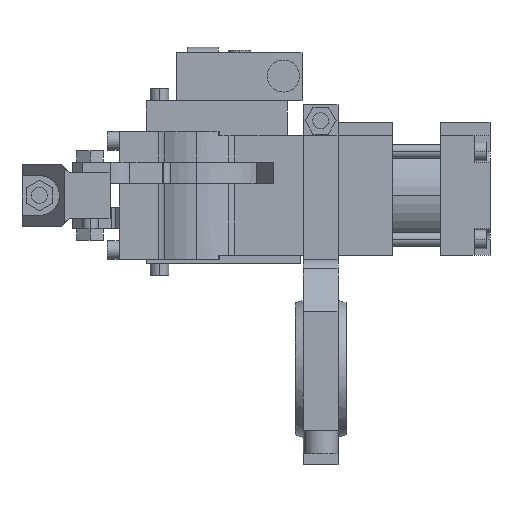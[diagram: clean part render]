
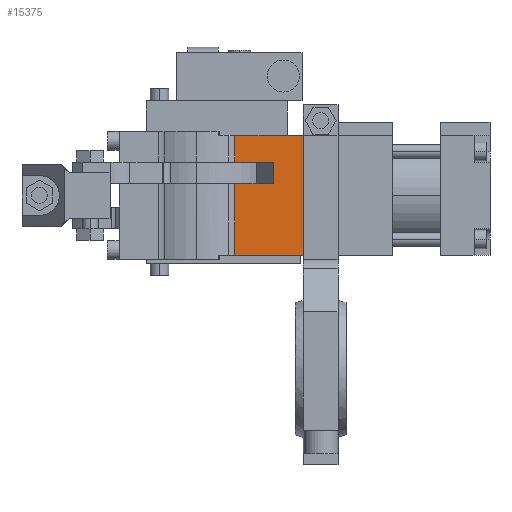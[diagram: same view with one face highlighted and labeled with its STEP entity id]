
A CAD part, left-side view. The second image highlights one B-rep face of the part: STEP entity #15375.
In plain terms, the highlighted planar face has unit normal (-1, 0, 0).
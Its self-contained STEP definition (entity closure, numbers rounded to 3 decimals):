
#337 = CARTESIAN_POINT ( 'NONE',  ( -22.5, -28.702, 12.5 ) ) ;
#551 = DIRECTION ( 'NONE',  ( 0., 0., -1. ) ) ;
#922 = LINE ( 'NONE', #8357, #19336 ) ;
#1585 = VECTOR ( 'NONE', #17774, 1000. ) ;
#1750 = CARTESIAN_POINT ( 'NONE',  ( -22.5, -14.309, -22.5 ) ) ;
#1998 = VERTEX_POINT ( 'NONE', #3906 ) ;
#2330 = EDGE_CURVE ( 'NONE', #1998, #13510, #922, .T. ) ;
#2394 = LINE ( 'NONE', #6320, #6030 ) ;
#2882 = CARTESIAN_POINT ( 'NONE',  ( -22.5, -14.309, 12.5 ) ) ;
#3906 = CARTESIAN_POINT ( 'NONE',  ( -22.5, -40., 22.5 ) ) ;
#4075 = LINE ( 'NONE', #6387, #19834 ) ;
#4427 = VERTEX_POINT ( 'NONE', #18984 ) ;
#5691 = DIRECTION ( 'NONE',  ( 0., 0., 1. ) ) ;
#5718 = LINE ( 'NONE', #7120, #1585 ) ;
#5760 = DIRECTION ( 'NONE',  ( 0., 1., 0. ) ) ;
#5776 = ORIENTED_EDGE ( 'NONE', *, *, #9754, .T. ) ;
#5782 = EDGE_CURVE ( 'NONE', #1998, #4427, #4075, .T. ) ;
#5829 = LINE ( 'NONE', #12871, #8981 ) ;
#6030 = VECTOR ( 'NONE', #15471, 1000. ) ;
#6320 = CARTESIAN_POINT ( 'NONE',  ( -22.5, -14.309, 12.5 ) ) ;
#6387 = CARTESIAN_POINT ( 'NONE',  ( -22.5, -40., 22.5 ) ) ;
#6398 = EDGE_LOOP ( 'NONE', ( #11719, #13628, #5776, #19831, #10591, #8449, #6745, #12016 ) ) ;
#6519 = VECTOR ( 'NONE', #17901, 1000. ) ;
#6551 = VERTEX_POINT ( 'NONE', #19367 ) ;
#6745 = ORIENTED_EDGE ( 'NONE', *, *, #5782, .T. ) ;
#7120 = CARTESIAN_POINT ( 'NONE',  ( -22.5, -14.309, 12.5 ) ) ;
#7238 = CARTESIAN_POINT ( 'NONE',  ( -22.5, -40., -22.5 ) ) ;
#8006 = DIRECTION ( 'NONE',  ( 0., 0., -1. ) ) ;
#8357 = CARTESIAN_POINT ( 'NONE',  ( -22.5, -40., 12.5 ) ) ;
#8449 = ORIENTED_EDGE ( 'NONE', *, *, #2330, .F. ) ;
#8693 = EDGE_CURVE ( 'NONE', #16094, #11063, #2394, .T. ) ;
#8782 = FACE_OUTER_BOUND ( 'NONE', #6398, .T. ) ;
#8981 = VECTOR ( 'NONE', #551, 1000. ) ;
#9432 = AXIS2_PLACEMENT_3D ( 'NONE', #2882, #19711, #10631 ) ;
#9754 = EDGE_CURVE ( 'NONE', #6551, #13123, #13393, .T. ) ;
#10010 = VECTOR ( 'NONE', #5691, 1000. ) ;
#10591 = ORIENTED_EDGE ( 'NONE', *, *, #17562, .T. ) ;
#10631 = DIRECTION ( 'NONE',  ( 0., 1., 0. ) ) ;
#11063 = VERTEX_POINT ( 'NONE', #15996 ) ;
#11192 = EDGE_CURVE ( 'NONE', #4427, #11063, #5718, .T. ) ;
#11719 = ORIENTED_EDGE ( 'NONE', *, *, #8693, .F. ) ;
#11844 = EDGE_CURVE ( 'NONE', #6551, #16094, #14045, .T. ) ;
#12016 = ORIENTED_EDGE ( 'NONE', *, *, #11192, .T. ) ;
#12093 = CARTESIAN_POINT ( 'NONE',  ( -22.5, -14.309, 4.5 ) ) ;
#12871 = CARTESIAN_POINT ( 'NONE',  ( -22.5, -14.309, 12.5 ) ) ;
#13090 = CARTESIAN_POINT ( 'NONE',  ( -22.5, -40., -22.5 ) ) ;
#13123 = VERTEX_POINT ( 'NONE', #12093 ) ;
#13294 = VERTEX_POINT ( 'NONE', #1750 ) ;
#13393 = LINE ( 'NONE', #19858, #16958 ) ;
#13510 = VERTEX_POINT ( 'NONE', #13090 ) ;
#13628 = ORIENTED_EDGE ( 'NONE', *, *, #11844, .F. ) ;
#13994 = EDGE_CURVE ( 'NONE', #13123, #13294, #5829, .T. ) ;
#14045 = LINE ( 'NONE', #17892, #10010 ) ;
#14169 = LINE ( 'NONE', #7238, #6519 ) ;
#15356 = DIRECTION ( 'NONE',  ( 0., 1., 0. ) ) ;
#15375 = ADVANCED_FACE ( 'NONE', ( #8782 ), #18128, .F. ) ;
#15471 = DIRECTION ( 'NONE',  ( 0., 1., 0. ) ) ;
#15996 = CARTESIAN_POINT ( 'NONE',  ( -22.5, -14.309, 12.5 ) ) ;
#16094 = VERTEX_POINT ( 'NONE', #337 ) ;
#16958 = VECTOR ( 'NONE', #15356, 1000. ) ;
#17562 = EDGE_CURVE ( 'NONE', #13294, #13510, #14169, .T. ) ;
#17774 = DIRECTION ( 'NONE',  ( 0., 0., -1. ) ) ;
#17892 = CARTESIAN_POINT ( 'NONE',  ( -22.5, -28.702, 12.5 ) ) ;
#17901 = DIRECTION ( 'NONE',  ( 0., -1., 0. ) ) ;
#18128 = PLANE ( 'NONE',  #9432 ) ;
#18984 = CARTESIAN_POINT ( 'NONE',  ( -22.5, -14.309, 22.5 ) ) ;
#19336 = VECTOR ( 'NONE', #8006, 1000. ) ;
#19367 = CARTESIAN_POINT ( 'NONE',  ( -22.5, -28.702, 4.5 ) ) ;
#19711 = DIRECTION ( 'NONE',  ( 1., 0., 0. ) ) ;
#19831 = ORIENTED_EDGE ( 'NONE', *, *, #13994, .T. ) ;
#19834 = VECTOR ( 'NONE', #5760, 1000. ) ;
#19858 = CARTESIAN_POINT ( 'NONE',  ( -22.5, -14.309, 4.5 ) ) ;
